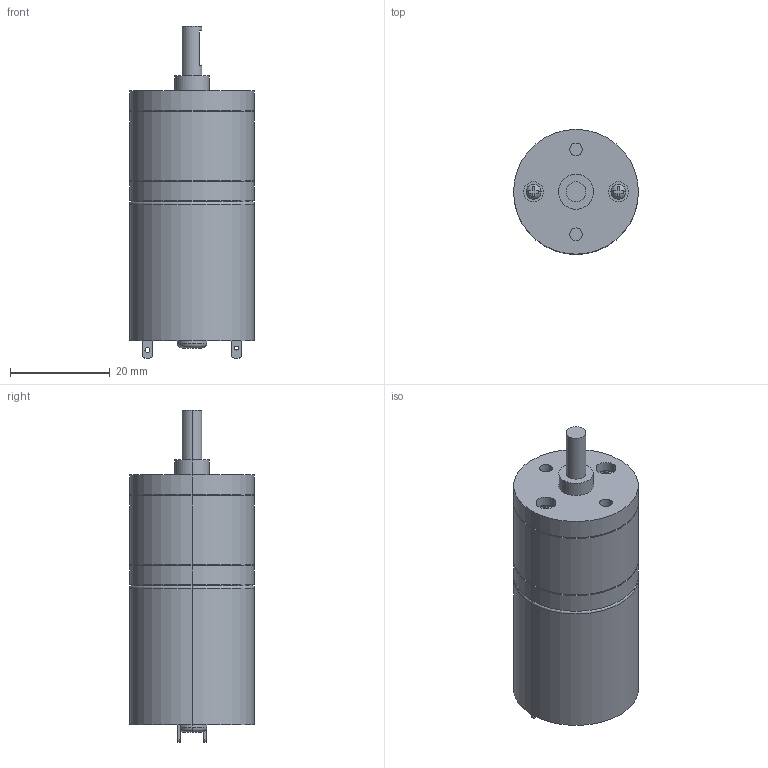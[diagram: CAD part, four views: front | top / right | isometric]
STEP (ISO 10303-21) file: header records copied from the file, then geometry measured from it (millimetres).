
FILE_DESCRIPTION (( 'STEP AP214' ), '1' );
FILE_NAME ('熬厒鎮湛.STEP', '2019-04-03T01:50:50', ( 'User' ), ( 'China' ), 'SwSTEP 2.0', 'SolidWorks 2016', '' );
FILE_SCHEMA (( 'AUTOMOTIVE_DESIGN' ));
Length unit declared in the file: millimetre
Products named in the file (1): 熬厒鎮湛
Bounding box: 25 x 25 x 66.5 mm (x, y, z)
Volume: 24523 mm3; surface area: 5514.5 mm2
Topology: 1 solids, 1 shells, 104 faces, 245 edges, 160 vertices
Faces by surface type: plane 54, cylinder 42, torus 4, sphere 4
Entity records: 3077 total; most frequent: DIRECTION 581, CARTESIAN_POINT 510, ORIENTED_EDGE 490, EDGE_CURVE 245, AXIS2_PLACEMENT_3D 231, VERTEX_POINT 160, CIRCLE 126, EDGE_LOOP 125
